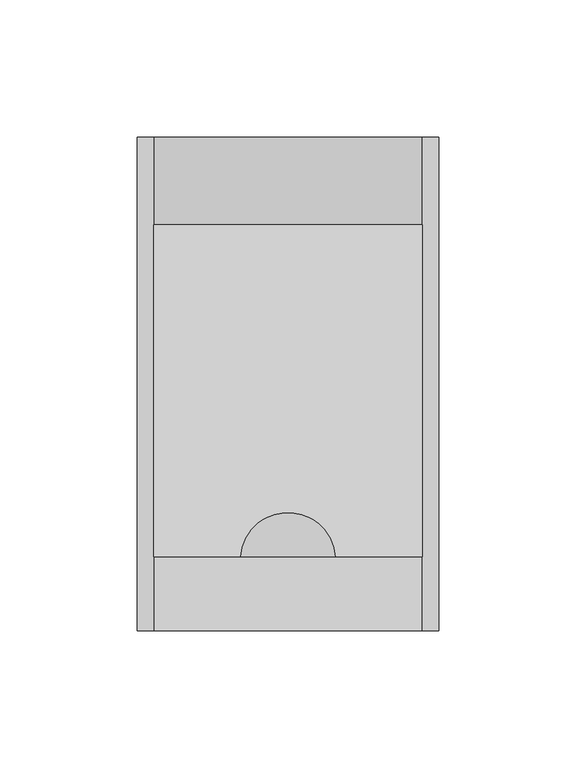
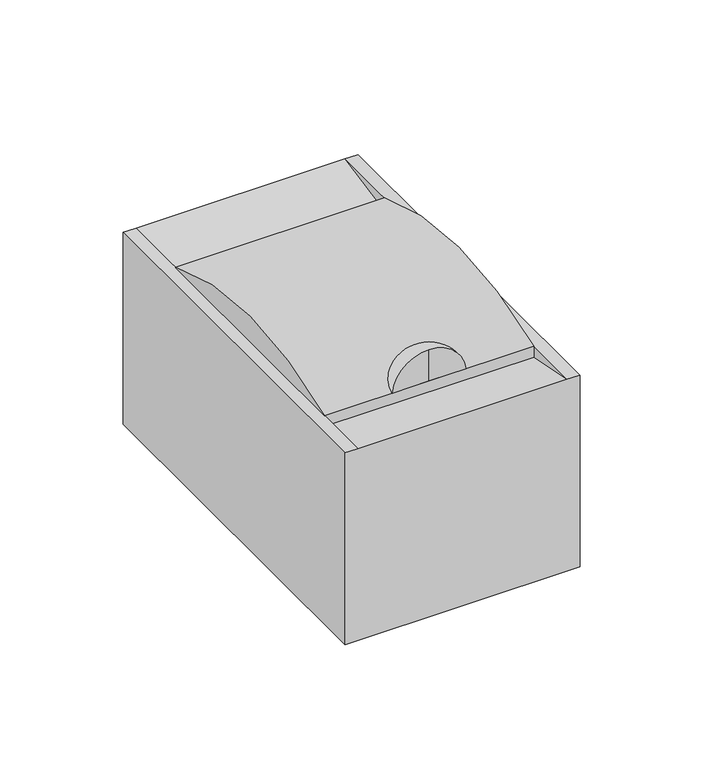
"""IFC4 building model written with IfcOpenShell, lengths in millimetres: proxy geometry, 400_5-_KOMF_VKRM : Met Tijdvertraging."""

import ifcopenshell
import ifcopenshell.guid

model = None  # the IFC model being written
_history = None  # IfcOwnerHistory: only IFC2X3 demands one
_inside = {}  # id of a spatial element -> (the spatial element, [elements in it])
_under = {}  # id of a project, library or spatial element -> (it, [spatial elements below it])
_declared = {}  # id of a project -> (the project, [libraries it declares])
_typed = {}  # id of a type object -> (the type object, [elements of that type])
_made_of = {}  # id of a material, layer set ... -> (it, [elements and type objects made of it])


def new_model(schema):
    """Start an empty IFC model of exactly this schema.

    Asked for "IFC4X3", IfcOpenShell would pick the latest addendum, in which some entities
    have other attributes; the version numbers below select the first issue.
    IFC2X3 requires an IfcOwnerHistory on every rooted entity: one is made here for all.
    """
    global model, _history
    if schema == "IFC4X3":
        model = ifcopenshell.file(schema_version=(4, 3, 0, 0))
    else:
        model = ifcopenshell.file(schema=schema)
    _inside.clear()
    _under.clear()
    _declared.clear()
    _typed.clear()
    _made_of.clear()
    _history = None
    if model.schema == "IFC2X3":
        org = make("IfcOrganization", Name="unknown")
        user = make(
            "IfcPersonAndOrganization",
            ThePerson=make("IfcPerson", FamilyName="unknown"),
            TheOrganization=org,
        )
        app = make(
            "IfcApplication",
            ApplicationDeveloper=org,
            Version="unknown",
            ApplicationFullName="unknown",
            ApplicationIdentifier="unknown",
        )
        _history = make(
            "IfcOwnerHistory",
            OwningUser=user,
            OwningApplication=app,
            ChangeAction="ADDED",
            CreationDate=0,
        )
    return model


def make(cls, **values):
    """One entity of the class cls with the attributes given. An attribute that is None is left unset."""
    return model.create_entity(
        cls, **{name: value for name, value in values.items() if value is not None}
    )


def rooted(cls, **values):
    """An entity with a GlobalId (a new one), such as an element, a storey or a relation."""
    return make(cls, GlobalId=ifcopenshell.guid.new(), OwnerHistory=_history, **values)


def si_unit(unit_type, name, prefix=None):
    """IfcSIUnit, for example si_unit("LENGTHUNIT", "METRE", prefix="MILLI")."""
    return make("IfcSIUnit", UnitType=unit_type, Prefix=prefix, Name=name)


def assignment(units):
    """IfcUnitAssignment: the units of a project."""
    return None if units is None else make("IfcUnitAssignment", Units=units)


def point(xyz):
    """IfcCartesianPoint."""
    return None if xyz is None else make("IfcCartesianPoint", Coordinates=xyz)


def direction(xyz):
    """IfcDirection."""
    return None if xyz is None else make("IfcDirection", DirectionRatios=xyz)


def frame(location, z_axis=None, x_axis=None):
    """IfcAxis2Placement3D, a coordinate frame: its origin and axes. An axis left out is left unset."""
    return make(
        "IfcAxis2Placement3D",
        Location=point(location),
        Axis=direction(z_axis),
        RefDirection=direction(x_axis),
    )


def frame_2d(location, x_axis=None):
    """IfcAxis2Placement2D, a coordinate frame in the plane: its origin and x axis."""
    return make(
        "IfcAxis2Placement2D", Location=point(location), RefDirection=direction(x_axis)
    )


def origin():
    """The frame at (0, 0, 0) with its axes left unset."""
    return frame((0.0, 0.0, 0.0))


def place(relative_to, where):
    """IfcLocalPlacement: puts the frame where relative to a parent placement (None: the world)."""
    return make(
        "IfcLocalPlacement", PlacementRelTo=relative_to, RelativePlacement=where
    )


def context(
    kind, dimensions, precision=None, world=None, true_north=None, identifier=None
):
    """IfcGeometricRepresentationContext, for example the 3D "Model" context."""
    return make(
        "IfcGeometricRepresentationContext",
        ContextIdentifier=identifier,
        ContextType=kind,
        CoordinateSpaceDimension=dimensions,
        Precision=precision,
        WorldCoordinateSystem=world,
        TrueNorth=true_north,
    )


def project(units=None, contexts=None):
    """IfcProject with its units and contexts."""
    return rooted(
        "IfcProject",
        Name="project",
        RepresentationContexts=contexts,
        UnitsInContext=assignment(units),
    )


def spatial(cls, under=None, at=None, **own):
    """A site, building, storey or space (cls), placed at a placement, below another one or the project."""
    s = rooted(cls, ObjectPlacement=at, **own)
    if under is not None:
        _under.setdefault(under.id(), (under, []))[1].append(s)
    return s


def polyline(points):
    """IfcPolyline through the points."""
    return make("IfcPolyline", Points=[point(p) for p in points])


def circle_curve(where, radius):
    """IfcCircle in the frame where."""
    return make("IfcCircle", Position=where, Radius=radius)


def ellipse_curve(where, semi_axis1, semi_axis2):
    """IfcEllipse in the frame where."""
    return make(
        "IfcEllipse", Position=where, SemiAxis1=semi_axis1, SemiAxis2=semi_axis2
    )


def trimmed(basis, trim1, trim2, sense, master):
    """IfcTrimmedCurve: the piece of a basis curve between two trims."""
    return make(
        "IfcTrimmedCurve",
        BasisCurve=basis,
        Trim1=trim1,
        Trim2=trim2,
        SenseAgreement=sense,
        MasterRepresentation=master,
    )


def segment(curve, same_sense, transition):
    """IfcCompositeCurveSegment."""
    return make(
        "IfcCompositeCurveSegment",
        Transition=transition,
        SameSense=same_sense,
        ParentCurve=curve,
    )


def composite_curve(segments, self_intersect=None):
    """IfcCompositeCurve: segments joined end to end."""
    return make("IfcCompositeCurve", Segments=segments, SelfIntersect=self_intersect)


def outline(outer, holes=None, kind="AREA"):
    """IfcArbitraryClosedProfileDef: a profile drawn as a closed curve; with holes, ...WithVoids."""
    if holes is None:
        return make("IfcArbitraryClosedProfileDef", ProfileType=kind, OuterCurve=outer)
    return make(
        "IfcArbitraryProfileDefWithVoids",
        ProfileType=kind,
        OuterCurve=outer,
        InnerCurves=holes,
    )


def extrude(swept, where, along, depth):
    """IfcExtrudedAreaSolid: the profile swept, set in the frame where, extruded along a direction by depth."""
    return make(
        "IfcExtrudedAreaSolid",
        SweptArea=swept,
        Position=where,
        ExtrudedDirection=direction(along),
        Depth=depth,
    )


def faces_of(points, faces, orient=None, outer=None):
    """IfcFace entities. A face is a list of loops; a loop is a list of indices into points, from 0.

    orient and outer hold one flag for each loop. By default every Orientation is true, the
    first loop of a face is its IfcFaceOuterBound and the others are IfcFaceBound.
    """
    made = []
    for i, loops in enumerate(faces):
        bounds = []
        for j, loop in enumerate(loops):
            is_outer = j == 0 if outer is None else outer[i][j]
            bounds.append(
                make(
                    "IfcFaceOuterBound" if is_outer else "IfcFaceBound",
                    Bound=make("IfcPolyLoop", Polygon=[points[k] for k in loop]),
                    Orientation=True if orient is None else orient[i][j],
                )
            )
        made.append(make("IfcFace", Bounds=bounds))
    return made


def faceted_brep(points, faces, orient=None, outer=None, voids=None):
    """IfcFacetedBrep: a solid bounded by flat faces; with voids (closed shells), ...WithVoids."""
    shared = [point(p) for p in points]
    hull = make("IfcClosedShell", CfsFaces=faces_of(shared, faces, orient, outer))
    if voids is None:
        return make("IfcFacetedBrep", Outer=hull)
    return make(
        "IfcFacetedBrepWithVoids",
        Outer=hull,
        Voids=[
            make(cls, CfsFaces=faces_of(shared, fs, o, b)) for cls, fs, o, b in voids
        ],
    )


def shape(context_of_items, identifier, shape_type, items):
    """IfcShapeRepresentation: the items that make up one representation, for example the "Body"."""
    return make(
        "IfcShapeRepresentation",
        ContextOfItems=context_of_items,
        RepresentationIdentifier=identifier,
        RepresentationType=shape_type,
        Items=items,
    )


def source(mapping_origin, context_of_items, identifier, shape_type, items):
    """IfcRepresentationMap: a shape defined once, which mapped items show again and again."""
    return make(
        "IfcRepresentationMap",
        MappingOrigin=mapping_origin,
        MappedRepresentation=shape(context_of_items, identifier, shape_type, items),
    )


def transform(
    local_origin,
    x_axis=None,
    y_axis=None,
    z_axis=None,
    scale=None,
    scale2=None,
    scale3=None,
    uniform=True,
):
    """IfcCartesianTransformationOperator3D, or its non-uniform kind. x_axis, y_axis, z_axis: its Axis1, 2, 3."""
    if uniform:
        return make(
            "IfcCartesianTransformationOperator3D",
            Axis1=direction(x_axis),
            Axis2=direction(y_axis),
            LocalOrigin=point(local_origin),
            Scale=scale,
            Axis3=direction(z_axis),
        )
    return make(
        "IfcCartesianTransformationOperator3DnonUniform",
        Axis1=direction(x_axis),
        Axis2=direction(y_axis),
        LocalOrigin=point(local_origin),
        Scale=scale,
        Axis3=direction(z_axis),
        Scale2=scale2,
        Scale3=scale3,
    )


def mapped(mapping_source, mapping_target):
    """IfcMappedItem: shows the shape of a source again, moved by a transform."""
    return make(
        "IfcMappedItem", MappingSource=mapping_source, MappingTarget=mapping_target
    )


def made_of(thing, what):
    """Note that an element or type object is made of a material, layer set ...; save() writes the relation."""
    if what is not None:
        _made_of.setdefault(what.id(), (what, []))[1].append(thing)
    return thing


def element(
    cls,
    number,
    at=None,
    inside=None,
    cuts=None,
    type_object=None,
    material=None,
    context=None,
    identifier="Body",
    shape_type=None,
    held_by="IfcProductDefinitionShape",
    body=None,
    shapes=None,
    **own,
):
    """One element of the class cls, such as IfcWall. Its Tag is "e" and its number.

    at: its placement. inside: the storey or other place that contains it. cuts: it is an
    opening in that element (IfcRelVoidsElement). A single representation is given by context,
    identifier, shape_type and body (its items); several are given by shapes. held_by: the class
    of the entity that holds the representations. save() writes the other relations.
    """
    e = rooted(cls, Tag="e%d" % number, ObjectPlacement=at, **own)
    if body is not None:
        shapes = [shape(context, identifier, shape_type, body)]
    if shapes is not None:
        e.Representation = make(held_by, Representations=shapes)
    if inside is not None:
        _inside.setdefault(inside.id(), (inside, []))[1].append(e)
    if cuts is not None:
        rooted(
            "IfcRelVoidsElement", RelatingBuildingElement=cuts, RelatedOpeningElement=e
        )
    if type_object is not None:
        _typed.setdefault(type_object.id(), (type_object, []))[1].append(e)
    return made_of(e, material)


def aggregate(whole, parts):
    """IfcRelAggregates: a whole, such as a stair, and the parts it consists of."""
    return rooted("IfcRelAggregates", RelatingObject=whole, RelatedObjects=parts)


def save(model, path):
    """Write the relations noted so far, then the file.

    IfcRelAggregates (storeys below a building ...), IfcRelContainedInSpatialStructure (elements
    in a storey), IfcRelDefinesByType, IfcRelAssociatesMaterial and IfcRelDeclares: one each for
    every whole, place, type object, material and project.
    """
    for whole, parts in _under.values():
        aggregate(whole, parts)
    for where, things in _inside.values():
        rooted(
            "IfcRelContainedInSpatialStructure",
            RelatedElements=things,
            RelatingStructure=where,
        )
    for kind, things in _typed.values():
        rooted("IfcRelDefinesByType", RelatedObjects=things, RelatingType=kind)
    for what, things in _made_of.values():
        rooted("IfcRelAssociatesMaterial", RelatedObjects=things, RelatingMaterial=what)
    for by, libraries in _declared.values():
        rooted("IfcRelDeclares", RelatingContext=by, RelatedDefinitions=libraries)
    model.write(path)


def plane_surface(at):
    """IfcPlane: the flat surface through the origin of the frame at, square to its z axis."""
    return make("IfcPlane", Position=at)


def revolved_surface(curve, axis_point, axis_direction):
    """IfcSurfaceOfRevolution: the curve turned about the line through axis_point along axis_direction."""
    return make(
        "IfcSurfaceOfRevolution",
        SweptCurve=make("IfcArbitraryOpenProfileDef", ProfileType="CURVE", Curve=curve),
        AxisPosition=make("IfcAxis1Placement", Location=point(axis_point), Axis=direction(axis_direction)),
    )


def advanced_brep(points, edges, surfaces, faces):
    """IfcAdvancedBrep: a solid bounded by faces that lie on surfaces and meet in shared edges.

    An edge is (start, end): straight between two places in points (the first is 0);
    or (start, end, curve); or (start, end, curve, False) where it runs against its curve.
    A face is (place in surfaces, loops), or (place, loops, False) where it looks against
    its surface's normal. A loop lists edges by number (the first is 1), with a minus sign
    where the edge is run from its end to its start. The first loop is the outer one.
    """
    corners = [point(p) for p in points]
    vertices = [make("IfcVertexPoint", VertexGeometry=c) for c in corners]
    made = []
    for start, end, *more in edges:
        made.append(
            make(
                "IfcEdgeCurve",
                EdgeStart=vertices[start],
                EdgeEnd=vertices[end],
                EdgeGeometry=more[0] if more else make("IfcPolyline", Points=[corners[start], corners[end]]),
                SameSense=more[1] if len(more) > 1 else True,
            )
        )
    hull = []
    for where, loops, *sense in faces:
        bounds = []
        for j, loop in enumerate(loops):
            ring = [make("IfcOrientedEdge", EdgeElement=made[abs(k) - 1], Orientation=k > 0) for k in loop]
            bounds.append(
                make(
                    "IfcFaceOuterBound" if j == 0 else "IfcFaceBound",
                    Bound=make("IfcEdgeLoop", EdgeList=ring),
                    Orientation=True,
                )
            )
        hull.append(make("IfcAdvancedFace", Bounds=bounds, FaceSurface=surfaces[where], SameSense=sense[0] if sense else True))
    return make("IfcAdvancedBrep", Outer=make("IfcClosedShell", CfsFaces=hull))


def mechanical_equipment_cd07d01e(model_context):
    return source(origin(), model_context, "Body", "SolidModel", [
        advanced_brep(
        [(72.2216694, 27.0, 95.0), (55.0, 27.0, 110.4731858), (55.0, 27.0, 95.0), (37.7783306, 27.0, 95.0)],
        [
            (0, 1, circle_curve(frame((55.0, 27.0, 93.1527263), z_axis=(0.0, -1.0, 0.0), x_axis=(1.0, 0.0, 0.0)), 17.3204595)),
            (1, 2),
            (2, 0),
            (3, 2),
            (1, 3, circle_curve(frame((55.0, 27.0, 93.1527263), z_axis=(0.0, -1.0, 0.0), x_axis=(-1.0, 0.0, 0.0)), 17.3204595)),
            (0, 3, circle_curve(frame((55.0, 27.0, 95.0), z_axis=(0.0, 0.0, 1.0), x_axis=(1.0, 0.0, 0.0)), 17.2216694)),
        ],
        [
            plane_surface(frame((55.0, 27.0, 105.0), z_axis=(0.0, -1.0, 0.0), x_axis=(1.0, 0.0, 0.0))),
            plane_surface(frame((55.0, 27.0, 105.0), z_axis=(0.0, -1.0, 0.0), x_axis=(-1.0, 0.0, 0.0))),
            revolved_surface(trimmed(ellipse_curve(frame((55.0, 27.0, 93.1527263), z_axis=(0.0, -1.0, 0.0), x_axis=(1.0, 0.0, 0.0)), 17.3204595, 17.3204595), [point((72.2216694, 27.0, 95.0))], [point((55.0, 27.0, 110.4731858))], True, "CARTESIAN"), (55.0, 27.0, 105.0), (0.0, 0.0, 1.0)),
            plane_surface(frame((55.0, 27.0, 95.0), z_axis=(0.0, 0.0, -1.0), x_axis=(1.0, 0.0, 0.0))),
        ],
        [
            (0, [[1, 2, 3]]),
            (1, [[4, -2, 5]]),
            (2, [[-1, 6, -5]]),
            (3, [[-6, -3, -4]]),
        ],
    ),
        extrude(outline(composite_curve([segment(polyline([(130.0, 85.0), (50.0, 85.0), (27.0, 89.6), (27.0, 95.0)]), True, "CONTINUOUS"), segment(trimmed(circle_curve(frame_2d((87.5, -47.1634452)), 154.5014406), [point((27.0, 95.0))], [point((148.0, 95.0))], False, "CARTESIAN"), True, "CONTINUOUS"), segment(polyline([(148.0, 95.0), (148.0, 88.6), (130.0, 85.0)]), True, "CONTINUOUS")], self_intersect=False)), frame((6.0, 0.0, 0.0), z_axis=(1.0, 0.0, 0.0), x_axis=(0.0, 1.0, 0.0)), (0.0, 0.0, 1.0), 98.0),
        faceted_brep([(0.0, 0.0, 95.0), (0.0, 0.0, 0.0), (110.0, 0.0, 0.0), (110.0, 0.0, 95.0), (104.0, 0.0, 95.0), (6.0, 0.0, 95.0), (110.0, 180.0, 95.0), (110.0, 180.0, 0.0), (0.0, 180.0, 0.0), (0.0, 180.0, 95.0), (6.0, 180.0, 95.0), (104.0, 180.0, 95.0), (104.0, 130.0, 85.0), (104.0, 50.0, 85.0), (6.0, 50.0, 85.0), (6.0, 130.0, 85.0)], [[[0, 1, 2, 3, 4, 5]], [[6, 7, 8, 9, 10, 11]], [[1, 0, 9, 8]], [[2, 1, 8, 7]], [[9, 0, 5, 10]], [[3, 6, 11, 4]], [[3, 2, 7, 6]], [[11, 12, 13, 4]], [[5, 14, 15, 10]], [[4, 13, 14, 5]], [[13, 12, 15, 14]], [[12, 11, 10, 15]]]),
    ])


if __name__ == "__main__":
    model = new_model("IFC4")
    model_context = context("Model", 3, world=origin())
    ifc_project = project(units=[si_unit("LENGTHUNIT", "METRE", prefix="MILLI")], contexts=[model_context])
    site = spatial("IfcSite", under=ifc_project)
    building = spatial("IfcBuilding", under=site)
    placement = place(None, origin())
    mechanical_equipment_shape = mechanical_equipment_cd07d01e(model_context)
    element("IfcBuildingElementProxy", 1, Name="400_5-_KOMF_VKRM : Met Tijdvertraging", ObjectType="400_5-_KOMF_VKRM : Met Tijdvertraging", at=placement, inside=building, context=model_context, shape_type="MappedRepresentation", body=[
        mapped(mechanical_equipment_shape, transform((0.0, 0.0, 0.0), x_axis=(1.0, 0.0, 0.0), y_axis=(0.0, 1.0, 0.0), z_axis=(0.0, 0.0, 1.0))),
    ])
    save(model, "model.ifc")
